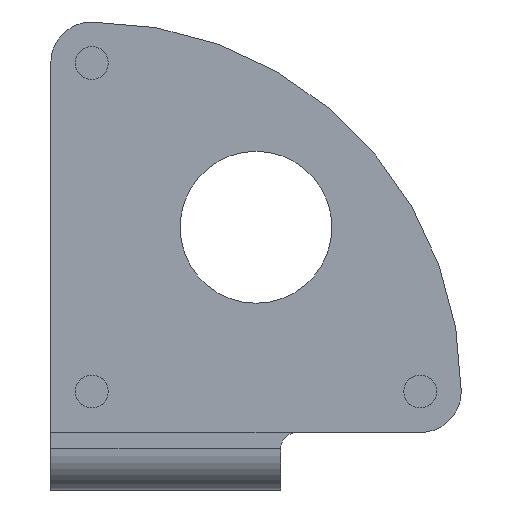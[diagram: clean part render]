
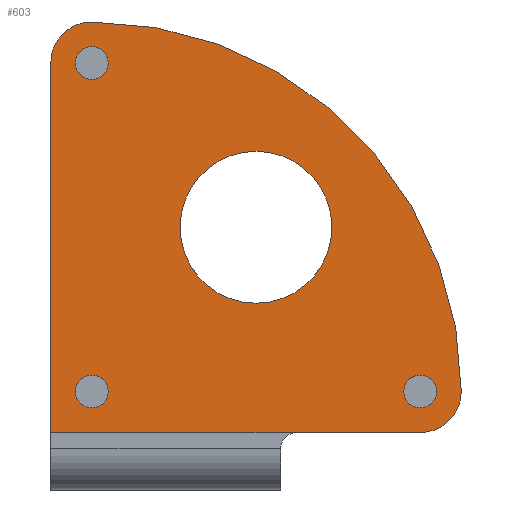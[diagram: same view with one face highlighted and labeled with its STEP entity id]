
A CAD part, front view. The second image highlights one B-rep face of the part: STEP entity #603.
In plain terms, the highlighted planar face has unit normal (0, -1, 0).
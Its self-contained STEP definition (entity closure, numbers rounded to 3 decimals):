
#20=LINE('',#938,#55);
#27=LINE('',#970,#62);
#55=VECTOR('',#740,1000.);
#62=VECTOR('',#773,1000.);
#93=PLANE('',#668);
#142=ORIENTED_EDGE('',*,*,#284,.F.);
#143=ORIENTED_EDGE('',*,*,#285,.F.);
#144=ORIENTED_EDGE('',*,*,#286,.F.);
#145=ORIENTED_EDGE('',*,*,#279,.T.);
#146=ORIENTED_EDGE('',*,*,#265,.F.);
#147=ORIENTED_EDGE('',*,*,#280,.F.);
#148=ORIENTED_EDGE('',*,*,#275,.F.);
#149=ORIENTED_EDGE('',*,*,#272,.F.);
#150=ORIENTED_EDGE('',*,*,#269,.F.);
#265=EDGE_CURVE('',#342,#343,#20,.T.);
#269=EDGE_CURVE('',#343,#346,#400,.T.);
#272=EDGE_CURVE('',#346,#348,#402,.T.);
#275=EDGE_CURVE('',#348,#350,#404,.T.);
#279=EDGE_CURVE('',#353,#353,#407,.T.);
#280=EDGE_CURVE('',#350,#342,#27,.T.);
#284=EDGE_CURVE('',#356,#356,#410,.F.);
#285=EDGE_CURVE('',#357,#357,#411,.F.);
#286=EDGE_CURVE('',#358,#358,#412,.F.);
#342=VERTEX_POINT('',#939);
#343=VERTEX_POINT('',#940);
#346=VERTEX_POINT('',#948);
#348=VERTEX_POINT('',#954);
#350=VERTEX_POINT('',#960);
#353=VERTEX_POINT('',#968);
#356=VERTEX_POINT('',#979);
#357=VERTEX_POINT('',#981);
#358=VERTEX_POINT('',#983);
#400=CIRCLE('',#653,5.);
#402=CIRCLE('',#656,45.);
#404=CIRCLE('',#659,5.);
#407=CIRCLE('',#663,9.25);
#410=CIRCLE('',#669,2.);
#411=CIRCLE('',#670,2.);
#412=CIRCLE('',#671,2.);
#454=EDGE_LOOP('',(#142));
#455=EDGE_LOOP('',(#143));
#456=EDGE_LOOP('',(#144));
#457=EDGE_LOOP('',(#145));
#458=EDGE_LOOP('',(#146,#147,#148,#149,#150));
#521=FACE_BOUND('',#454,.T.);
#522=FACE_BOUND('',#455,.T.);
#523=FACE_BOUND('',#456,.T.);
#524=FACE_BOUND('',#457,.T.);
#525=FACE_BOUND('',#458,.T.);
#603=ADVANCED_FACE('',(#521,#522,#523,#524,#525),#93,.F.);
#653=AXIS2_PLACEMENT_3D('',#947,#746,#747);
#656=AXIS2_PLACEMENT_3D('',#953,#753,#754);
#659=AXIS2_PLACEMENT_3D('',#959,#760,#761);
#663=AXIS2_PLACEMENT_3D('',#967,#769,#770);
#668=AXIS2_PLACEMENT_3D('',#977,#781,#782);
#669=AXIS2_PLACEMENT_3D('',#978,#783,#784);
#670=AXIS2_PLACEMENT_3D('',#980,#785,#786);
#671=AXIS2_PLACEMENT_3D('',#982,#787,#788);
#740=DIRECTION('',(0.,0.,1.));
#746=DIRECTION('',(0.,1.,0.));
#747=DIRECTION('',(1.,0.,0.));
#753=DIRECTION('',(0.,1.,0.));
#754=DIRECTION('',(1.,0.,0.));
#760=DIRECTION('',(0.,1.,0.));
#761=DIRECTION('',(1.,0.,0.));
#769=DIRECTION('',(0.,1.,0.));
#770=DIRECTION('',(1.,0.,0.));
#773=DIRECTION('',(-1.,0.,0.));
#781=DIRECTION('',(0.,1.,0.));
#782=DIRECTION('',(0.,0.,1.));
#783=DIRECTION('',(0.,1.,0.));
#784=DIRECTION('',(0.,0.,1.));
#785=DIRECTION('',(0.,1.,0.));
#786=DIRECTION('',(0.,0.,1.));
#787=DIRECTION('',(0.,1.,0.));
#788=DIRECTION('',(0.,0.,1.));
#938=CARTESIAN_POINT('',(-25.,0.,-25.));
#939=CARTESIAN_POINT('',(-25.,0.,-25.));
#940=CARTESIAN_POINT('',(-25.,0.,20.));
#947=CARTESIAN_POINT('',(-20.,0.,20.));
#948=CARTESIAN_POINT('',(-20.,0.,25.));
#953=CARTESIAN_POINT('',(-20.,0.,-20.));
#954=CARTESIAN_POINT('',(25.,0.,-20.));
#959=CARTESIAN_POINT('',(20.,0.,-20.));
#960=CARTESIAN_POINT('',(20.,0.,-25.));
#967=CARTESIAN_POINT('',(0.,0.,0.));
#968=CARTESIAN_POINT('',(9.25,0.,0.));
#970=CARTESIAN_POINT('',(20.,0.,-25.));
#977=CARTESIAN_POINT('',(-20.,0.,20.));
#978=CARTESIAN_POINT('',(-20.,0.,20.));
#979=CARTESIAN_POINT('',(-20.,0.,22.));
#980=CARTESIAN_POINT('',(20.,0.,-20.));
#981=CARTESIAN_POINT('',(20.,0.,-18.));
#982=CARTESIAN_POINT('',(-20.,0.,-20.));
#983=CARTESIAN_POINT('',(-20.,0.,-18.));
